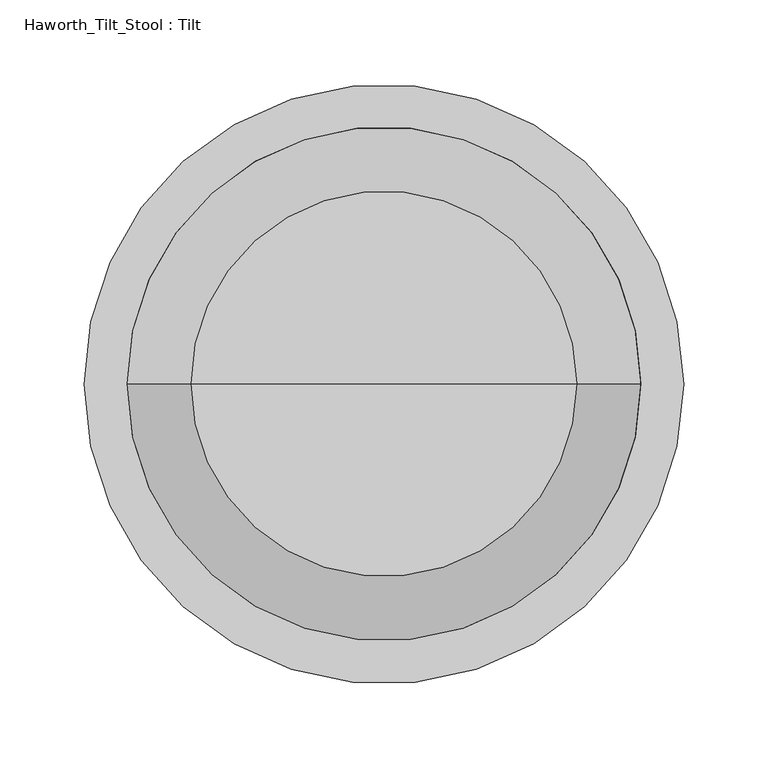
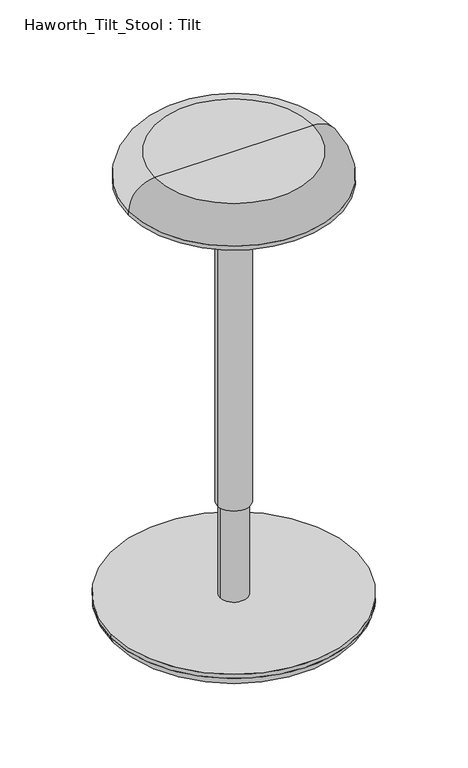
"""IFC4 building model written with IfcOpenShell, lengths in millimetres: furniture geometry, Haworth_Tilt_Stool : Tilt."""

from ifc_helpers import new_model, si_unit, point, frame, frame_2d, origin, origin_2d, place, context, project, spatial, circle_curve, ellipse_curve, trimmed, segment, composite_curve, outline, extrude, source, transform, mapped, element, save
from ifc_brep_helpers import plane_surface, revolved_surface, advanced_brep


def haworth_tilt_stool_tilt_fa742e71(model_context):
    return source(origin(), model_context, "Body", "SolidModel", [
        extrude(outline(composite_curve([segment(trimmed(circle_curve(frame_2d((0.0, 615.95)), 3.175), [point((-3.175, 615.95))], [point((3.175, 615.95))], False, "CARTESIAN"), True, "CONTINUOUS"), segment(trimmed(circle_curve(frame_2d((0.0, 615.95)), 3.175), [point((3.175, 615.95))], [point((-3.175, 615.95))], False, "CARTESIAN"), True, "CONTINUOUS")], self_intersect=False)), frame((24.1192004, 0.0, 0.0), z_axis=(1.0, 0.0, 0.0), x_axis=(0.0, 1.0, 0.0)), (0.0, 0.0, 1.0), 86.2355281),
        extrude(outline(composite_curve([segment(trimmed(circle_curve(origin_2d(), 19.9389992), [point((19.9389992, 0.0))], [point((-19.9389992, 0.0))], False, "CARTESIAN"), True, "CONTINUOUS"), segment(trimmed(circle_curve(origin_2d(), 19.9389992), [point((-19.9389992, 0.0))], [point((19.9389992, 0.0))], False, "CARTESIAN"), True, "CONTINUOUS")], self_intersect=False)), frame((0.0, 0.0, 36.2489797), z_axis=(0.0, 0.0, 1.0), x_axis=(1.0, 0.0, 0.0)), (0.0, 0.0, 1.0), 141.5510203),
        extrude(outline(composite_curve([segment(trimmed(circle_curve(origin_2d(), 23.6220002), [point((23.6220002, 0.0))], [point((-23.6220002, 0.0))], False, "CARTESIAN"), True, "CONTINUOUS"), segment(trimmed(circle_curve(origin_2d(), 23.6220002), [point((-23.6220002, 0.0))], [point((23.6220002, 0.0))], False, "CARTESIAN"), True, "CONTINUOUS")], self_intersect=False)), frame((0.0, 0.0, 177.8), z_axis=(0.0, 0.0, 1.0), x_axis=(1.0, 0.0, 0.0)), (0.0, 0.0, 1.0), 488.95),
        advanced_brep(
        [(-79.6904572, 0.0, 0.0), (79.6904572, 0.0, 0.0), (0.0, 0.0, 0.0), (-164.2207634, 0.0, 13.7158758), (164.2207634, 0.0, 13.7158758), (-177.8, 0.0, 29.8989797), (177.8, 0.0, 29.8989797), (0.0, 0.0, 29.8989797)],
        [
            (0, 1, circle_curve(frame((0.0, 0.0, 0.0), z_axis=(0.0, 0.0, -1.0), x_axis=(1.0, 0.0, 0.0)), 79.6904572)),
            (1, 2),
            (2, 0),
            (1, 0, circle_curve(frame((0.0, 0.0, 0.0), z_axis=(0.0, 0.0, -1.0), x_axis=(1.0, 0.0, 0.0)), 79.6904572)),
            (3, 4, circle_curve(frame((0.0, 0.0, 13.7158758), z_axis=(0.0, 0.0, -1.0), x_axis=(1.0, 0.0, 0.0)), 164.2207634)),
            (4, 1, circle_curve(frame((75.3690865, 0.0, 293.9685237), z_axis=(0.0, 1.0, 0.0), x_axis=(1.0, 0.0, 0.0)), 294.0002843)),
            (0, 3, circle_curve(frame((-75.3690865, 0.0, 293.9685237), z_axis=(0.0, 1.0, 0.0), x_axis=(-1.0, 0.0, 0.0)), 294.0002843)),
            (4, 3, circle_curve(frame((0.0, 0.0, 13.7158758), z_axis=(0.0, 0.0, -1.0), x_axis=(1.0, 0.0, 0.0)), 164.2207634)),
            (5, 6, circle_curve(frame((0.0, 0.0, 29.8989797), z_axis=(0.0, 0.0, -1.0), x_axis=(1.0, 0.0, 0.0)), 177.8)),
            (6, 4, circle_curve(frame((158.264676, 0.0, 32.5023447), z_axis=(0.0, 1.0, 0.0), x_axis=(1.0, 0.0, 0.0)), 19.7080286)),
            (3, 5, circle_curve(frame((-158.264676, 0.0, 32.5023447), z_axis=(0.0, 1.0, 0.0), x_axis=(-1.0, 0.0, 0.0)), 19.7080286)),
            (6, 5, circle_curve(frame((0.0, 0.0, 29.8989797), z_axis=(0.0, 0.0, -1.0), x_axis=(1.0, 0.0, 0.0)), 177.8)),
            (7, 6),
            (5, 7),
        ],
        [
            plane_surface(frame((0.0, 0.0, 0.0), z_axis=(0.0, 0.0, -1.0), x_axis=(1.0, 0.0, 0.0))),
            revolved_surface(trimmed(ellipse_curve(frame((75.3690865, 0.0, 293.9685237), z_axis=(0.0, -1.0, 0.0), x_axis=(1.0, 0.0, 0.0)), 294.0002843, 294.0002843), [point((79.6904572, 0.0, 0.0))], [point((164.2207634, 0.0, 13.7158758))], True, "CARTESIAN"), (0.0, 0.0, 2494.2743093), (0.0, 0.0, 1.0)),
            revolved_surface(trimmed(ellipse_curve(frame((158.264676, 0.0, 32.5023447), z_axis=(0.0, -1.0, 0.0), x_axis=(1.0, 0.0, 0.0)), 19.7080286, 19.7080286), [point((164.2207634, 0.0, 13.7158758))], [point((177.8, 0.0, 29.8989797))], True, "CARTESIAN"), (0.0, 0.0, 2494.2743093), (0.0, 0.0, 1.0)),
            plane_surface(frame((0.0, 0.0, 29.8989797), z_axis=(0.0, 0.0, 1.0), x_axis=(1.0, 0.0, 0.0))),
        ],
        [
            (0, [[1, 2, 3]]),
            (0, [[4, -3, -2]]),
            (1, [[5, 6, -1, 7]]),
            (1, [[8, -7, -4, -6]]),
            (2, [[9, 10, -5, 11]]),
            (2, [[12, -11, -8, -10]]),
            (3, [[13, -9, 14]]),
            (3, [[-14, -12, -13]]),
        ],
    ),
        extrude(outline(composite_curve([segment(trimmed(circle_curve(origin_2d(), 177.8), [point((177.8, 0.0))], [point((-177.8, 0.0))], False, "CARTESIAN"), True, "CONTINUOUS"), segment(trimmed(circle_curve(origin_2d(), 177.8), [point((-177.8, 0.0))], [point((177.8, 0.0))], False, "CARTESIAN"), True, "CONTINUOUS")], self_intersect=False)), frame((0.0, 0.0, 29.8989797), z_axis=(0.0, 0.0, 1.0), x_axis=(1.0, 0.0, 0.0)), (0.0, 0.0, 1.0), 6.35),
        advanced_brep(
        [(0.0, 0.0, 711.2), (114.2999941, 0.0, 711.2), (-114.2999941, 0.0, 711.2), (-152.3999941, 0.0, 673.1), (152.3999941, 0.0, 673.1), (0.0, 0.0, 673.1)],
        [
            (0, 1),
            (1, 2, circle_curve(frame((0.0, 0.0, 711.2), z_axis=(0.0, 0.0, 1.0), x_axis=(1.0, 0.0, 0.0)), 114.2999941)),
            (2, 0),
            (2, 1, circle_curve(frame((0.0, 0.0, 711.2), z_axis=(0.0, 0.0, 1.0), x_axis=(1.0, 0.0, 0.0)), 114.2999941)),
            (3, 4, circle_curve(frame((0.0, 0.0, 673.1), z_axis=(0.0, 0.0, -1.0), x_axis=(1.0, 0.0, 0.0)), 152.3999941)),
            (4, 5),
            (5, 3),
            (4, 3, circle_curve(frame((0.0, 0.0, 673.1), z_axis=(0.0, 0.0, -1.0), x_axis=(1.0, 0.0, 0.0)), 152.3999941)),
            (1, 4, circle_curve(frame((114.2999941, 0.0, 673.1), z_axis=(0.0, 1.0, 0.0), x_axis=(1.0, 0.0, 0.0)), 38.1)),
            (3, 2, circle_curve(frame((-114.2999941, 0.0, 673.1), z_axis=(0.0, 1.0, 0.0), x_axis=(-1.0, 0.0, 0.0)), 38.1)),
        ],
        [
            plane_surface(frame((0.0, 0.0, 711.2), z_axis=(0.0, 0.0, 1.0), x_axis=(1.0, 0.0, 0.0))),
            plane_surface(frame((0.0, 0.0, 673.1), z_axis=(0.0, 0.0, -1.0), x_axis=(1.0, 0.0, 0.0))),
            revolved_surface(trimmed(ellipse_curve(frame((114.2999941, 0.0, 673.1), z_axis=(0.0, -1.0, 0.0), x_axis=(1.0, 0.0, 0.0)), 38.1, 38.1), [point((152.3999941, 0.0, 673.1))], [point((114.2999941, 0.0, 711.2))], True, "CARTESIAN"), (0.0, 0.0, 2494.2743093), (0.0, 0.0, 1.0)),
        ],
        [
            (0, [[1, 2, 3]]),
            (0, [[-3, 4, -1]]),
            (1, [[5, 6, 7]]),
            (1, [[8, -7, -6]]),
            (2, [[-2, 9, -5, 10]]),
            (2, [[-4, -10, -8, -9]]),
        ],
    ),
        extrude(outline(composite_curve([segment(trimmed(circle_curve(frame_2d((-5.9e-06, 0.0)), 152.4), [point((-152.4000059, 0.0))], [point((152.3999941, 0.0))], False, "CARTESIAN"), True, "CONTINUOUS"), segment(trimmed(circle_curve(frame_2d((-5.9e-06, 0.0)), 152.4), [point((152.3999941, 0.0))], [point((-152.4000059, 0.0))], False, "CARTESIAN"), True, "CONTINUOUS")], self_intersect=False)), frame((0.0, 0.0, 666.75), z_axis=(0.0, 0.0, 1.0), x_axis=(1.0, 0.0, 0.0)), (0.0, 0.0, 1.0), 6.35),
    ])


if __name__ == "__main__":
    model = new_model("IFC4")
    model_context = context("Model", 3, world=origin())
    ifc_project = project(units=[si_unit("LENGTHUNIT", "METRE", prefix="MILLI")], contexts=[model_context])
    site = spatial("IfcSite", under=ifc_project)
    building = spatial("IfcBuilding", under=site)
    placement = place(None, origin())
    haworth_tilt_stool_tilt_shape = haworth_tilt_stool_tilt_fa742e71(model_context)
    element("IfcFurniture", 1, ObjectType="Haworth_Tilt_Stool : Tilt", at=placement, inside=building, context=model_context, shape_type="MappedRepresentation", body=[
        mapped(haworth_tilt_stool_tilt_shape, transform((0.0, 0.0, 0.0), x_axis=(1.0, 0.0, 0.0), y_axis=(0.0, 1.0, 0.0), z_axis=(0.0, 0.0, 1.0))),
    ])
    save(model, "model.ifc")
